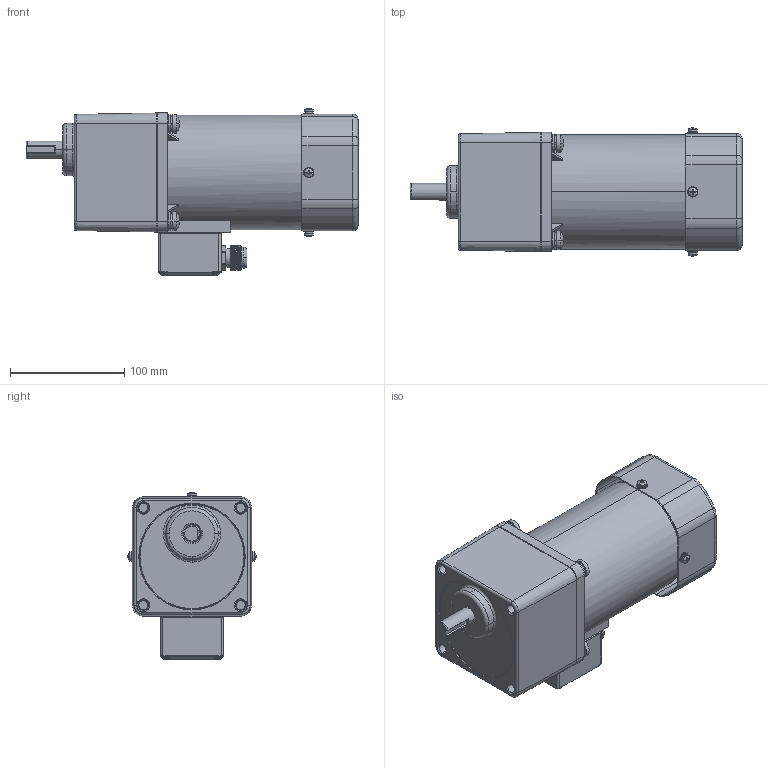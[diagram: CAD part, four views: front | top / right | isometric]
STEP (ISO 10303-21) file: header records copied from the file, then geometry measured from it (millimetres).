
FILE_DESCRIPTION (( 'STEP AP203' ), '1' );
FILE_NAME ('6IK120GU-CFT(6GU3K-200K).STEP', '2022-11-01T00:26:47', ( 'Windows User' ), ( 'P R C' ), 'SwSTEP 2.0', 'SolidWorks 2019', '' );
FILE_SCHEMA (( 'CONFIG_CONTROL_DESIGN' ));
Length unit declared in the file: millimetre
Products named in the file (13): 6GU3K-200K; JXH-1^6IK120A-CFT_6IK120GU-CFT(6GU3K-200K)(2)_6IK120GU-CFT(6GU3K-200K); ^_JXH-1_6IK120A-CFT_6IK120GU-CFT(6GU3K-200K)(2)_6IK120GU-CFT(6GU3K-200K); 6IK120GU-CFT(6GU3K-200K); ^JXH-1_6IK120A-CFT_6IK120GU-CFT(6GU3K-200K)(2)_6IK120GU-CFT(6GU3K-200K); 100JXHJK^6IK120A-CFT_6IK120GU-CFT(6GU3K-200K)(2)_6IK120GU-CFT(6GU3K-200K); 葩璃 (6) ^_JXH-1_6IK120A-CFT_6IK120GU-CFT(6GU3K-200K)(2)_6IK120GU-CFT(6GU3K-200K); 6IK120GU-CFT(6GU3K-200K)(2)^6IK120GU-CFT(6GU3K-200K); 葩璃 (4) ^_JXH-1_6IK120A-CFT_6IK120GU-CFT(6GU3K-200K)(2)_6IK120GU-CFT(6GU3K-200K); 6IK120A-CFT^6IK120GU-CFT(6GU3K-200K)(2)_6IK120GU-CFT(6GU3K-200K); 葩璃 (5) ^_JXH-1_6IK120A-CFT_6IK120GU-CFT(6GU3K-200K)(2)_6IK120GU-CFT(6GU3K-200K); 葩璃 (3) ^_JXH-1_6IK120A-CFT_6IK120GU-CFT(6GU3K-200K)(2)_6IK120GU-CFT(6GU3K-200K); 葩璃 (2) ^_JXH-1_6IK120A-CFT_6IK120GU-CFT(6GU3K-200K)(2)_6IK120GU-CFT(6GU3K-200K)
Assembly tree (12 placements, depth 6):
  6IK120GU-CFT(6GU3K-200K)
    6IK120GU-CFT(6GU3K-200K)(2)^6IK120GU-CFT(6GU3K-200K)
      6IK120A-CFT^6IK120GU-CFT(6GU3K-200K)(2)_6IK120GU-CFT(6GU3K-200K)
        JXH-1^6IK120A-CFT_6IK120GU-CFT(6GU3K-200K)(2)_6IK120GU-CFT(6GU3K-200K)
          ^JXH-1_6IK120A-CFT_6IK120GU-CFT(6GU3K-200K)(2)_6IK120GU-CFT(6GU3K-200K)
            ^_JXH-1_6IK120A-CFT_6IK120GU-CFT(6GU3K-200K)(2)_6IK120GU-CFT(6GU3K-200K)
            葩璃 (2) ^_JXH-1_6IK120A-CFT_6IK120GU-CFT(6GU3K-200K)(2)_6IK120GU-CFT(6GU3K-200K)
            葩璃 (3) ^_JXH-1_6IK120A-CFT_6IK120GU-CFT(6GU3K-200K)(2)_6IK120GU-CFT(6GU3K-200K)
            葩璃 (4) ^_JXH-1_6IK120A-CFT_6IK120GU-CFT(6GU3K-200K)(2)_6IK120GU-CFT(6GU3K-200K)
            葩璃 (5) ^_JXH-1_6IK120A-CFT_6IK120GU-CFT(6GU3K-200K)(2)_6IK120GU-CFT(6GU3K-200K)
            葩璃 (6) ^_JXH-1_6IK120A-CFT_6IK120GU-CFT(6GU3K-200K)(2)_6IK120GU-CFT(6GU3K-200K)
        100JXHJK^6IK120A-CFT_6IK120GU-CFT(6GU3K-200K)(2)_6IK120GU-CFT(6GU3K-200K)
    6GU3K-200K
Bounding box: 290 x 111.91 x 145.96 mm (x, y, z)
Volume: 2029595.3 mm3; surface area: 209075 mm2
Topology: 33 solids, 33 shells, 1617 faces, 4150 edges, 2631 vertices
Faces by surface type: cylinder 700, plane 454, cone 306, torus 79, sphere 40, bspline 38
Entity records: 55976 total; most frequent: CARTESIAN_POINT 14564, DIRECTION 8949, ORIENTED_EDGE 8268, EDGE_CURVE 4134, AXIS2_PLACEMENT_3D 3646, VERTEX_POINT 2627, CIRCLE 2048, EDGE_LOOP 1729
